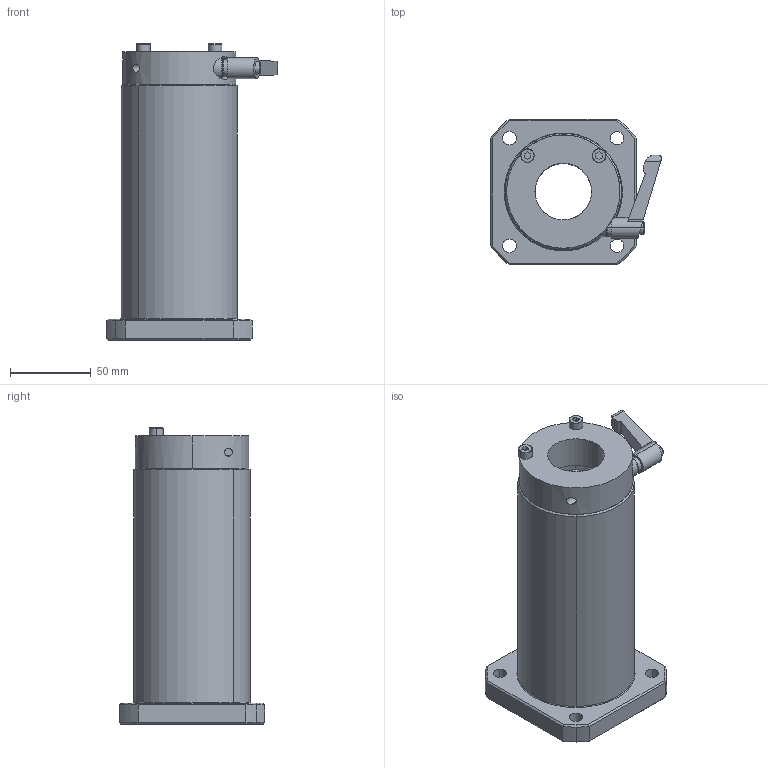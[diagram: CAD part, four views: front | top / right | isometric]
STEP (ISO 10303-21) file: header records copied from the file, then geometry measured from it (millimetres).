
FILE_DESCRIPTION (( 'STEP AP214' ), '1' );
FILE_NAME ('LFWK35-CS.STEP', '2023-06-27T02:01:22', ( '' ), ( '' ), 'SwSTEP 2.0', 'SolidWorks 2019', '' );
FILE_SCHEMA (( 'AUTOMOTIVE_DESIGN' ));
Length unit declared in the file: millimetre
Products named in the file (3): LFWK35; “ÁSCK3520SS-S5.5; LFWK35-CS
Assembly tree (2 placements, depth 2):
  LFWK35-CS
    LFWK35
    “ÁSCK3520SS-S5.5
Bounding box: 105.7 x 90 x 183 mm (x, y, z)
Volume: 578105 mm3; surface area: 96294.4 mm2
Topology: 3 solids, 8 shells, 222 faces, 556 edges, 344 vertices
Faces by surface type: cylinder 79, plane 69, bspline 41, cone 25, torus 8
Entity records: 9778 total; most frequent: CARTESIAN_POINT 2153, DIRECTION 1165, ORIENTED_EDGE 1112, EDGE_CURVE 556, AXIS2_PLACEMENT_3D 484, VERTEX_POINT 344, CIRCLE 298, EDGE_LOOP 262
